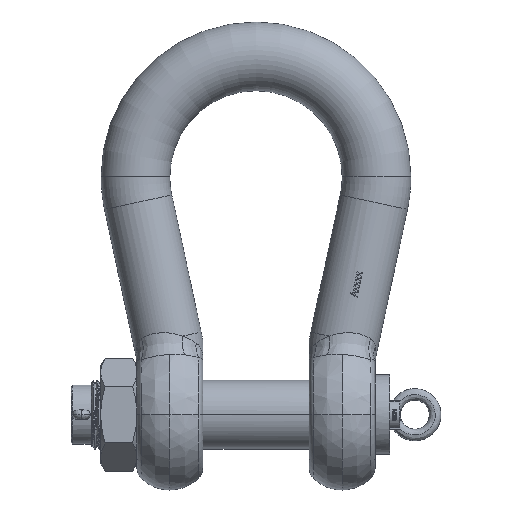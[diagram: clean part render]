
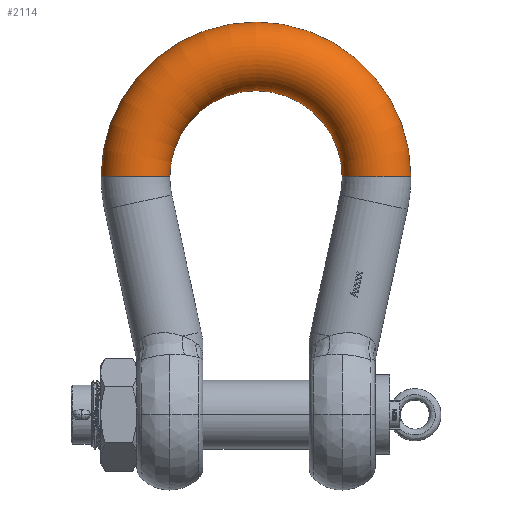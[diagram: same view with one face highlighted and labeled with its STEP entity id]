
A CAD part, front view. The second image highlights one B-rep face of the part: STEP entity #2114.
In plain terms, the highlighted toroidal (fillet/blend) face has major radius 166.5 mm and minor radius 47.495 mm.
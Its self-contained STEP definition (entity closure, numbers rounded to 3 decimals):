
#2114=ADVANCED_FACE('',(#5062),#5063,.T.);
#5062=FACE_OUTER_BOUND('',#10772,.T.);
#5063=TOROIDAL_SURFACE('',#10773,166.5,47.495);
#10772=EDGE_LOOP('',(#33623,#33624,#33625,#33626));
#10773=AXIS2_PLACEMENT_3D('',#33627,#33628,#33629);
#33623=ORIENTED_EDGE('',*,*,#44788,.T.);
#33624=ORIENTED_EDGE('',*,*,#44789,.F.);
#33625=ORIENTED_EDGE('',*,*,#44790,.T.);
#33626=ORIENTED_EDGE('',*,*,#44695,.F.);
#33627=CARTESIAN_POINT('',(0.0,0.0,328.5));
#33628=DIRECTION('',(0.0,-1.0,0.0));
#33629=DIRECTION('',(1.0,0.0,0.0));
#44695=EDGE_CURVE('',#51708,#51707,#51710,.F.);
#44788=EDGE_CURVE('',#51708,#51881,#51882,.F.);
#44789=EDGE_CURVE('',#51883,#51881,#51884,.T.);
#44790=EDGE_CURVE('',#51883,#51707,#51885,.T.);
#51707=VERTEX_POINT('',#65518);
#51708=VERTEX_POINT('',#65519);
#51710=CIRCLE('',#65521,47.495);
#51881=VERTEX_POINT('',#65962);
#51882=CIRCLE('',#65963,119.005);
#51883=VERTEX_POINT('',#65964);
#51884=B_SPLINE_CURVE_WITH_KNOTS('',5,(#65965,#65966,#65967,#65968,#65969,#65970,#65971,#65972,#65973,#65974,#65975,#65976,#65977,#65978,#65979,#65980,#65981,#65982,#65983,#65984,#65985,#65986,#65987,#65988),.UNSPECIFIED.,.F.,.F.,(6,3,3,3,3,3,3,6),(0.,31.035,62.07,93.106,124.141,155.176,186.211,211.013),.UNSPECIFIED.);
#51885=CIRCLE('',#65989,213.995);
#65518=CARTESIAN_POINT('',(-213.995,0.0,328.5));
#65519=CARTESIAN_POINT('',(-119.005,0.,328.5));
#65521=AXIS2_PLACEMENT_3D('',#92885,#92886,#92887);
#65962=CARTESIAN_POINT('',(119.005,0.,328.5));
#65963=AXIS2_PLACEMENT_3D('',#92896,#92897,#92898);
#65964=CARTESIAN_POINT('',(213.995,0.0,328.5));
#65965=CARTESIAN_POINT('',(213.995,0.,328.5));
#65966=CARTESIAN_POINT('',(213.995,-4.389,328.5));
#65967=CARTESIAN_POINT('',(213.488,-8.778,328.5));
#65968=CARTESIAN_POINT('',(212.474,-13.089,328.5));
#65969=CARTESIAN_POINT('',(209.468,-21.399,328.5));
#65970=CARTESIAN_POINT('',(204.648,-28.804,328.5));
#65971=CARTESIAN_POINT('',(201.818,-32.211,328.5));
#65972=CARTESIAN_POINT('',(195.423,-38.31,328.5));
#65973=CARTESIAN_POINT('',(187.807,-42.79,328.5));
#65974=CARTESIAN_POINT('',(183.755,-44.578,328.5));
#65975=CARTESIAN_POINT('',(175.312,-47.186,328.5));
#65976=CARTESIAN_POINT('',(166.497,-47.801,328.5));
#65977=CARTESIAN_POINT('',(162.073,-47.595,328.5));
#65978=CARTESIAN_POINT('',(153.353,-46.167,328.5));
#65979=CARTESIAN_POINT('',(145.188,-42.787,328.5));
#65980=CARTESIAN_POINT('',(141.32,-40.631,328.5));
#65981=CARTESIAN_POINT('',(134.151,-35.465,328.5));
#65982=CARTESIAN_POINT('',(128.349,-28.8,328.5));
#65983=CARTESIAN_POINT('',(125.847,-25.145,328.5));
#65984=CARTESIAN_POINT('',(122.147,-18.11,328.5));
#65985=CARTESIAN_POINT('',(119.976,-10.483,328.5));
#65986=CARTESIAN_POINT('',(119.329,-7.015,328.5));
#65987=CARTESIAN_POINT('',(119.005,-3.508,328.5));
#65988=CARTESIAN_POINT('',(119.005,0.,328.5));
#65989=AXIS2_PLACEMENT_3D('',#92899,#92900,#92901);
#92885=CARTESIAN_POINT('',(-166.5,0.0,328.5));
#92886=DIRECTION('',(0.,0.0,1.0));
#92887=DIRECTION('',(-1.0,0.0,0.));
#92896=CARTESIAN_POINT('',(0.0,0.,328.5));
#92897=DIRECTION('',(0.0,-1.0,0.0));
#92898=DIRECTION('',(-1.0,0.0,0.0));
#92899=CARTESIAN_POINT('',(0.0,0.,328.5));
#92900=DIRECTION('',(0.0,-1.0,0.0));
#92901=DIRECTION('',(-1.0,0.0,0.0));
